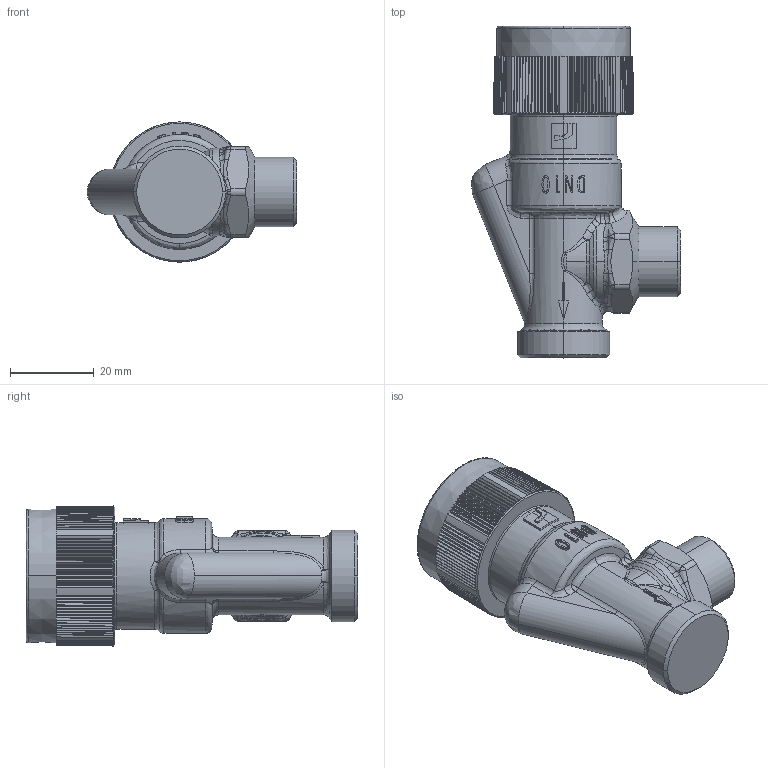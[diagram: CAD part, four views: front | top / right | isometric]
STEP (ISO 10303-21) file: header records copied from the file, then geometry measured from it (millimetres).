
FILE_DESCRIPTION (( 'STEP AP203' ), '1' );
FILE_NAME ('443111.STEP', '2021-06-22T14:39:52', ( '' ), ( '' ), 'SwSTEP 2.0', 'SolidWorks 2016', '' );
FILE_SCHEMA (( 'CONFIG_CONTROL_DESIGN' ));
Products named in the file (1): 443111
Bounding box: 50.06 x 79.35 x 33.5 mm (x, y, z)
Volume: 49052.7 mm3; surface area: 10366.8 mm2
Topology: 1 solids, 1 shells, 744 faces, 1962 edges, 1226 vertices
Faces by surface type: plane 261, cylinder 194, bspline 152, cone 137
Entity records: 36813 total; most frequent: CARTESIAN_POINT 20715, ORIENTED_EDGE 3920, DIRECTION 2607, EDGE_CURVE 1960, VERTEX_POINT 1226, AXIS2_PLACEMENT_3D 950, EDGE_LOOP 752, FACE_OUTER_BOUND 744
